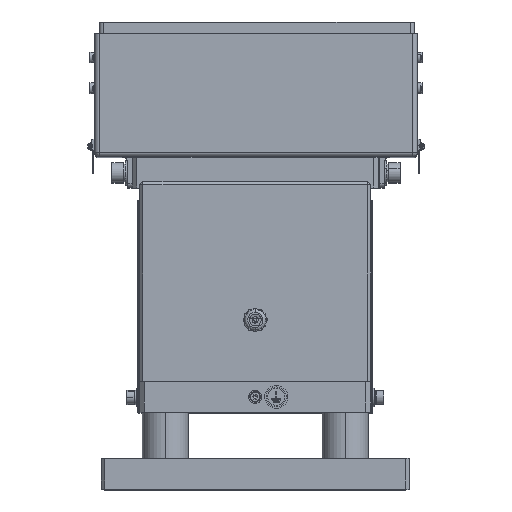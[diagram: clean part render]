
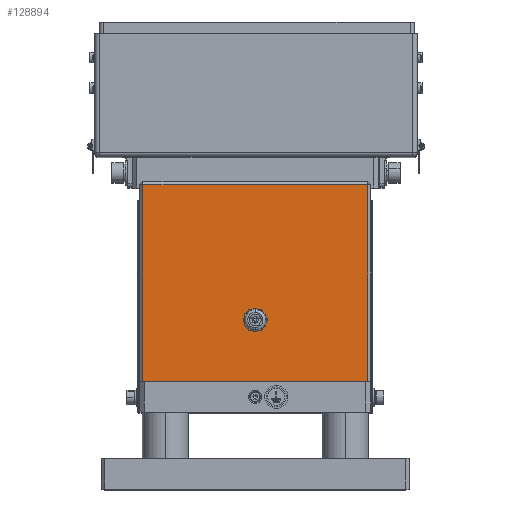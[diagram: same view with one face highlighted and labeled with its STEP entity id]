
A CAD part, top view. The second image highlights one B-rep face of the part: STEP entity #128894.
In plain terms, the highlighted planar face has unit normal (0, 0, 1).
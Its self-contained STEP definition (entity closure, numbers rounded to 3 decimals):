
#16177 = CARTESIAN_POINT ( 'NONE',  ( 73., 198., 175. ) ) ;
#16423 = ORIENTED_EDGE ( 'NONE', *, *, #94254, .F. ) ;
#18796 = DIRECTION ( 'NONE',  ( 0., 1., 0. ) ) ;
#31478 = CARTESIAN_POINT ( 'NONE',  ( -73., 70., 175. ) ) ;
#32752 = VERTEX_POINT ( 'NONE', #31478 ) ;
#33936 = EDGE_CURVE ( 'NONE', #68131, #153829, #157038, .T. ) ;
#34147 = DIRECTION ( 'NONE',  ( 0., 0., 1. ) ) ;
#35718 = VECTOR ( 'NONE', #116686, 1000. ) ;
#43278 = ORIENTED_EDGE ( 'NONE', *, *, #147440, .T. ) ;
#43810 = CARTESIAN_POINT ( 'NONE',  ( 0., 104.75, 175. ) ) ;
#48933 = DIRECTION ( 'NONE',  ( 0., -1., 0. ) ) ;
#51515 = EDGE_LOOP ( 'NONE', ( #16423, #43278, #175014, #85039 ) ) ;
#53819 = CARTESIAN_POINT ( 'NONE',  ( 73., 70., 175. ) ) ;
#56080 = DIRECTION ( 'NONE',  ( 0., 1., 0. ) ) ;
#56619 = FACE_OUTER_BOUND ( 'NONE', #51515, .T. ) ;
#58620 = AXIS2_PLACEMENT_3D ( 'NONE', #76277, #34147, #134891 ) ;
#59264 = AXIS2_PLACEMENT_3D ( 'NONE', #107985, #63400, #18796 ) ;
#59328 = LINE ( 'NONE', #176051, #182242 ) ;
#61163 = FACE_BOUND ( 'NONE', #96999, .T. ) ;
#61345 = EDGE_CURVE ( 'NONE', #153829, #68131, #168048, .T. ) ;
#63400 = DIRECTION ( 'NONE',  ( 0., 0., 1. ) ) ;
#68131 = VERTEX_POINT ( 'NONE', #187427 ) ;
#75252 = VERTEX_POINT ( 'NONE', #53819 ) ;
#76277 = CARTESIAN_POINT ( 'NONE',  ( 0., 110., 175. ) ) ;
#77213 = AXIS2_PLACEMENT_3D ( 'NONE', #135065, #136298, #48933 ) ;
#78616 = DIRECTION ( 'NONE',  ( -1., 0., 0. ) ) ;
#81740 = VERTEX_POINT ( 'NONE', #16177 ) ;
#85039 = ORIENTED_EDGE ( 'NONE', *, *, #180485, .T. ) ;
#87327 = CARTESIAN_POINT ( 'NONE',  ( 75., 70., 175. ) ) ;
#92940 = PLANE ( 'NONE',  #77213 ) ;
#94254 = EDGE_CURVE ( 'NONE', #75252, #32752, #108710, .T. ) ;
#96999 = EDGE_LOOP ( 'NONE', ( #176066, #105759 ) ) ;
#97176 = VECTOR ( 'NONE', #56080, 1000. ) ;
#102994 = LINE ( 'NONE', #118905, #150594 ) ;
#105759 = ORIENTED_EDGE ( 'NONE', *, *, #61345, .F. ) ;
#107985 = CARTESIAN_POINT ( 'NONE',  ( 0., 110., 175. ) ) ;
#108710 = LINE ( 'NONE', #87327, #35718 ) ;
#112126 = CARTESIAN_POINT ( 'NONE',  ( -73., 198., 175. ) ) ;
#116686 = DIRECTION ( 'NONE',  ( -1., 0., 0. ) ) ;
#118905 = CARTESIAN_POINT ( 'NONE',  ( -73., 70., 175. ) ) ;
#128894 = ADVANCED_FACE ( 'NONE', ( #61163, #56619 ), #92940, .F. ) ;
#132355 = DIRECTION ( 'NONE',  ( 0., -1., 0. ) ) ;
#133898 = VERTEX_POINT ( 'NONE', #112126 ) ;
#134891 = DIRECTION ( 'NONE',  ( 0., 1., 0. ) ) ;
#135065 = CARTESIAN_POINT ( 'NONE',  ( 75., 70., 175. ) ) ;
#136298 = DIRECTION ( 'NONE',  ( 0., 0., -1. ) ) ;
#142069 = CARTESIAN_POINT ( 'NONE',  ( 73., 70., 175. ) ) ;
#146645 = EDGE_CURVE ( 'NONE', #81740, #133898, #59328, .T. ) ;
#147440 = EDGE_CURVE ( 'NONE', #75252, #81740, #165434, .T. ) ;
#150594 = VECTOR ( 'NONE', #132355, 1000. ) ;
#153829 = VERTEX_POINT ( 'NONE', #43810 ) ;
#157038 = CIRCLE ( 'NONE', #58620, 5.25 ) ;
#165434 = LINE ( 'NONE', #142069, #97176 ) ;
#168048 = CIRCLE ( 'NONE', #59264, 5.25 ) ;
#175014 = ORIENTED_EDGE ( 'NONE', *, *, #146645, .T. ) ;
#176051 = CARTESIAN_POINT ( 'NONE',  ( 75., 198., 175. ) ) ;
#176066 = ORIENTED_EDGE ( 'NONE', *, *, #33936, .F. ) ;
#180485 = EDGE_CURVE ( 'NONE', #133898, #32752, #102994, .T. ) ;
#182242 = VECTOR ( 'NONE', #78616, 1000. ) ;
#187427 = CARTESIAN_POINT ( 'NONE',  ( 0., 115.25, 175. ) ) ;
